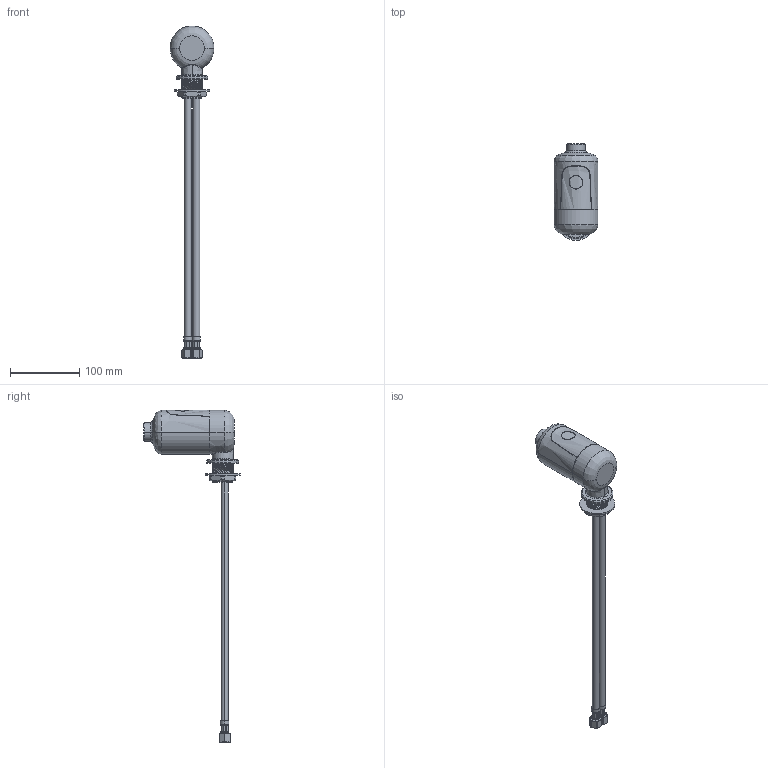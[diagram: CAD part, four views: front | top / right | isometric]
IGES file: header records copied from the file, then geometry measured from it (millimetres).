
Start section:  PTC IGES file: 116-414-21-1_REV030910.igs
Global section: file name: 116-414-21-1_REV030910.igs; native system: Pro/ENGINEER by Parametric Technology Corporation; preprocessor: 2009230; author: sdmitruk; organization: Unknown; date: 20100309.092054; units: inch
Bounding box: 63.5 x 139.7 x 479.67 mm (x, y, z)
Surface area: 72082.8 mm2 (no closed solid volume)
Topology: 0 solids, 32 shells, 282 faces, 818 edges, 549 vertices
Faces by surface type: bspline 141, revolution 141
